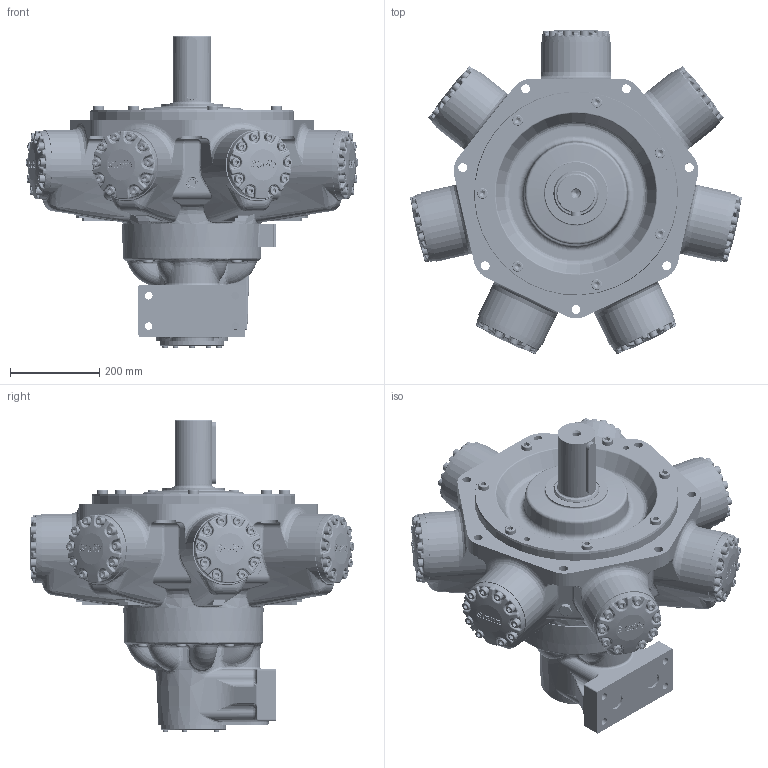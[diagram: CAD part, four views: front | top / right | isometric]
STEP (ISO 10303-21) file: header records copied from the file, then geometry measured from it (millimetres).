
FILE_DESCRIPTION(/* description */ (''),/* implementation_level */ '2;1');
FILE_NAME(/* name */ 'HMC325_P1_SM4_X.stp',/* time_stamp */ '2025-06-12T13:48:00+01:00',/* author */ ('ccallanga'),/* organization */ (''),/* preprocessor_version */ 'ST-DEVELOPER v20',/* originating_system */ 'Autodesk Inventor 2024',/* authorisation */ '');
FILE_SCHEMA (('AUTOMOTIVE_DESIGN { 1 0 10303 214 3 1 1 }'));
Products named in the file (1): 017753 HMC325 Web Assembly_Simplify_1
Bounding box: 744.35 x 728.18 x 698.32 mm (x, y, z)
Volume: 76177846.1 mm3; surface area: 1768480.6 mm2
Topology: 1 solids, 1 shells, 6041 faces, 14601 edges, 8590 vertices
Faces by surface type: bspline 2360, plane 1623, cylinder 1241, torus 503, sphere 162, cone 152
Full cylindrical faces by diameter (mm): 5 x4, 11.445 x2, 11.913 x5, 12.7 x5, 14.351 x2, 16.51 x1, 17 x4, 17.323 x1, 19.05 x70, 20 x7, 20.637 x70, 23.825 x14, 25 x4, 25.4 x14, 26.92 x2, 38 x2, 38.1 x3, 85.001 x1, 101.575 x1, 106.68 x1, 139.7 x1, 146.05 x1, 311 x1, 311.15 x1, 457.11 x1
Entity records: 273147 total; most frequent: CARTESIAN_POINT 144134, ORIENTED_EDGE 28658, DIRECTION 20351, EDGE_CURVE 14329, VERTEX_POINT 8590, AXIS2_PLACEMENT_3D 7926, EDGE_LOOP 6365, STYLED_ITEM 6042
